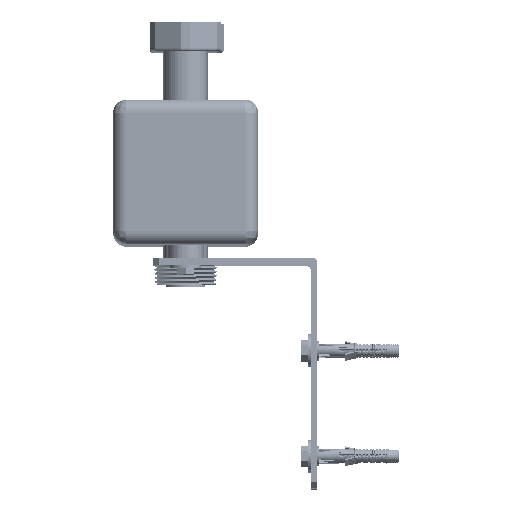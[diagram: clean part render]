
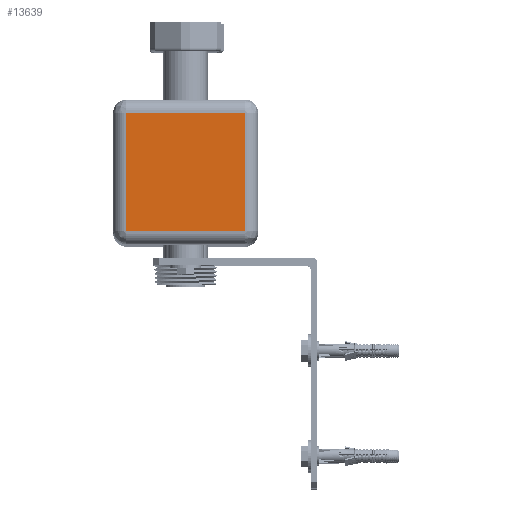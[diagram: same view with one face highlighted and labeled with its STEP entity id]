
A CAD part, top view. The second image highlights one B-rep face of the part: STEP entity #13639.
In plain terms, the highlighted planar face has unit normal (0, 0, 1).
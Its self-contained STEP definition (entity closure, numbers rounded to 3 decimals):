
#1073 = CARTESIAN_POINT ( 'NONE',  ( -45., -45., 25. ) ) ;
#1351 = LINE ( 'NONE', #20574, #52940 ) ;
#2497 = VECTOR ( 'NONE', #21348, 1000. ) ;
#4748 = LINE ( 'NONE', #22159, #2497 ) ;
#7712 = LINE ( 'NONE', #50509, #42894 ) ;
#8495 = DIRECTION ( 'NONE',  ( 0., 1., 0. ) ) ;
#8936 = CARTESIAN_POINT ( 'NONE',  ( 45., 45., 25. ) ) ;
#9626 = CARTESIAN_POINT ( 'NONE',  ( -45., 45., 25. ) ) ;
#13639 = ADVANCED_FACE ( 'NONE', ( #18005 ), #18544, .T. ) ;
#15018 = VERTEX_POINT ( 'NONE', #1073 ) ;
#18005 = FACE_OUTER_BOUND ( 'NONE', #29091, .T. ) ;
#18144 = ORIENTED_EDGE ( 'NONE', *, *, #46890, .T. ) ;
#18444 = DIRECTION ( 'NONE',  ( 1., 0., 0. ) ) ;
#18544 = PLANE ( 'NONE',  #26122 ) ;
#20574 = CARTESIAN_POINT ( 'NONE',  ( 0., 45., 25. ) ) ;
#21348 = DIRECTION ( 'NONE',  ( 0., -1., 0. ) ) ;
#22159 = CARTESIAN_POINT ( 'NONE',  ( -45., 0., 25. ) ) ;
#23105 = VERTEX_POINT ( 'NONE', #9626 ) ;
#25350 = CARTESIAN_POINT ( 'NONE',  ( 45., -45., 25. ) ) ;
#25360 = VECTOR ( 'NONE', #18444, 1000. ) ;
#26122 = AXIS2_PLACEMENT_3D ( 'NONE', #52397, #31632, #34651 ) ;
#29091 = EDGE_LOOP ( 'NONE', ( #52055, #52608, #49503, #18144 ) ) ;
#30146 = EDGE_CURVE ( 'NONE', #51142, #32049, #7712, .T. ) ;
#31632 = DIRECTION ( 'NONE',  ( 0., 0., 1. ) ) ;
#32049 = VERTEX_POINT ( 'NONE', #8936 ) ;
#34555 = LINE ( 'NONE', #52302, #25360 ) ;
#34651 = DIRECTION ( 'NONE',  ( 1., 0., 0. ) ) ;
#42894 = VECTOR ( 'NONE', #8495, 1000. ) ;
#44153 = DIRECTION ( 'NONE',  ( -1., 0., 0. ) ) ;
#44261 = EDGE_CURVE ( 'NONE', #32049, #23105, #1351, .T. ) ;
#46890 = EDGE_CURVE ( 'NONE', #23105, #15018, #4748, .T. ) ;
#49503 = ORIENTED_EDGE ( 'NONE', *, *, #44261, .T. ) ;
#50509 = CARTESIAN_POINT ( 'NONE',  ( 45., 0., 25. ) ) ;
#51142 = VERTEX_POINT ( 'NONE', #25350 ) ;
#52055 = ORIENTED_EDGE ( 'NONE', *, *, #52723, .T. ) ;
#52302 = CARTESIAN_POINT ( 'NONE',  ( 0., -45., 25. ) ) ;
#52397 = CARTESIAN_POINT ( 'NONE',  ( 0., 0., 25. ) ) ;
#52608 = ORIENTED_EDGE ( 'NONE', *, *, #30146, .T. ) ;
#52723 = EDGE_CURVE ( 'NONE', #15018, #51142, #34555, .T. ) ;
#52940 = VECTOR ( 'NONE', #44153, 1000. ) ;
